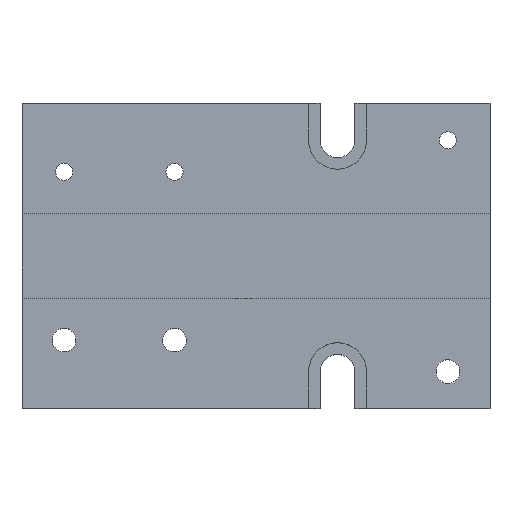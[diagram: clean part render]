
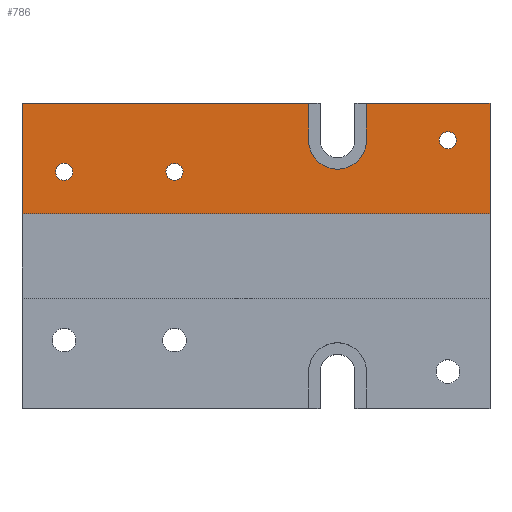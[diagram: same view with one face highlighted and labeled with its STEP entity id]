
A CAD part, top view. The second image highlights one B-rep face of the part: STEP entity #786.
In plain terms, the highlighted planar face has unit normal (0, 0, 1).
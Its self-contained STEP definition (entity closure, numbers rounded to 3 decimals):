
#36=FACE_BOUND('',#171,.T.);
#37=FACE_BOUND('',#172,.T.);
#38=FACE_BOUND('',#173,.T.);
#65=PLANE('',#856);
#107=FACE_OUTER_BOUND('',#170,.T.);
#170=EDGE_LOOP('',(#705,#706,#707,#708,#709,#710,#711,#712));
#171=EDGE_LOOP('',(#713));
#172=EDGE_LOOP('',(#714));
#173=EDGE_LOOP('',(#715));
#186=LINE('',#1106,#262);
#189=LINE('',#1112,#265);
#199=LINE('',#1137,#275);
#236=LINE('',#1261,#312);
#243=LINE('',#1274,#319);
#249=LINE('',#1287,#325);
#250=LINE('',#1288,#326);
#262=VECTOR('',#889,7.);
#265=VECTOR('',#894,7.);
#275=VECTOR('',#916,23.5);
#312=VECTOR('',#1043,21.);
#319=VECTOR('',#1052,89.);
#325=VECTOR('',#1066,54.5);
#326=VECTOR('',#1067,21.);
#330=CIRCLE('',#797,5.5);
#342=CIRCLE('',#825,1.621);
#346=CIRCLE('',#833,1.621);
#350=CIRCLE('',#841,1.621);
#362=VERTEX_POINT('',#1096);
#363=VERTEX_POINT('',#1097);
#366=VERTEX_POINT('',#1105);
#368=VERTEX_POINT('',#1111);
#377=VERTEX_POINT('',#1136);
#403=VERTEX_POINT('',#1209);
#407=VERTEX_POINT('',#1221);
#411=VERTEX_POINT('',#1233);
#419=VERTEX_POINT('',#1260);
#424=VERTEX_POINT('',#1271);
#427=VERTEX_POINT('',#1286);
#438=EDGE_CURVE('',#362,#363,#330,.T.);
#442=EDGE_CURVE('',#363,#366,#186,.T.);
#445=EDGE_CURVE('',#368,#362,#189,.T.);
#458=EDGE_CURVE('',#377,#368,#199,.T.);
#494=EDGE_CURVE('',#403,#403,#342,.T.);
#498=EDGE_CURVE('',#407,#407,#346,.T.);
#502=EDGE_CURVE('',#411,#411,#350,.T.);
#514=EDGE_CURVE('',#419,#377,#236,.T.);
#521=EDGE_CURVE('',#424,#419,#243,.T.);
#527=EDGE_CURVE('',#366,#427,#249,.T.);
#528=EDGE_CURVE('',#427,#424,#250,.T.);
#705=ORIENTED_EDGE('',*,*,#442,.T.);
#706=ORIENTED_EDGE('',*,*,#527,.T.);
#707=ORIENTED_EDGE('',*,*,#528,.T.);
#708=ORIENTED_EDGE('',*,*,#521,.T.);
#709=ORIENTED_EDGE('',*,*,#514,.T.);
#710=ORIENTED_EDGE('',*,*,#458,.T.);
#711=ORIENTED_EDGE('',*,*,#445,.T.);
#712=ORIENTED_EDGE('',*,*,#438,.T.);
#713=ORIENTED_EDGE('',*,*,#494,.T.);
#714=ORIENTED_EDGE('',*,*,#498,.T.);
#715=ORIENTED_EDGE('',*,*,#502,.T.);
#786=ADVANCED_FACE('',(#107,#36,#37,#38),#65,.T.);
#797=AXIS2_PLACEMENT_3D('',#1098,#881,#882);
#825=AXIS2_PLACEMENT_3D('',#1210,#981,#982);
#833=AXIS2_PLACEMENT_3D('',#1222,#997,#998);
#841=AXIS2_PLACEMENT_3D('',#1234,#1013,#1014);
#856=AXIS2_PLACEMENT_3D('',#1285,#1064,#1065);
#881=DIRECTION('center_axis',(0.,0.,-1.));
#882=DIRECTION('ref_axis',(1.,0.,0.));
#889=DIRECTION('',(0.,1.,0.));
#894=DIRECTION('',(0.,-1.,0.));
#916=DIRECTION('',(-1.,0.,0.));
#981=DIRECTION('center_axis',(0.,0.,-1.));
#982=DIRECTION('ref_axis',(1.,0.,0.));
#997=DIRECTION('center_axis',(0.,0.,-1.));
#998=DIRECTION('ref_axis',(1.,0.,0.));
#1013=DIRECTION('center_axis',(0.,0.,-1.));
#1014=DIRECTION('ref_axis',(1.,0.,0.));
#1043=DIRECTION('',(0.,1.,0.));
#1052=DIRECTION('',(1.,0.,0.));
#1064=DIRECTION('center_axis',(0.,0.,1.));
#1065=DIRECTION('ref_axis',(1.,0.,0.));
#1066=DIRECTION('',(-1.,0.,0.));
#1067=DIRECTION('',(0.,-1.,0.));
#1096=CARTESIAN_POINT('',(21.,22.,10.));
#1097=CARTESIAN_POINT('',(10.,22.,10.));
#1098=CARTESIAN_POINT('Origin',(15.5,22.,10.));
#1105=CARTESIAN_POINT('',(10.,29.,10.));
#1106=CARTESIAN_POINT('',(10.,14.5,10.));
#1111=CARTESIAN_POINT('',(21.,29.,10.));
#1112=CARTESIAN_POINT('',(21.,11.,10.));
#1136=CARTESIAN_POINT('',(44.5,29.,10.));
#1137=CARTESIAN_POINT('',(-44.5,29.,10.));
#1209=CARTESIAN_POINT('',(-34.879,16.,10.));
#1210=CARTESIAN_POINT('Origin',(-36.5,16.,10.));
#1221=CARTESIAN_POINT('',(-13.879,16.,10.));
#1222=CARTESIAN_POINT('Origin',(-15.5,16.,10.));
#1233=CARTESIAN_POINT('',(38.121,22.,10.));
#1234=CARTESIAN_POINT('Origin',(36.5,22.,10.));
#1260=CARTESIAN_POINT('',(44.5,8.,10.));
#1261=CARTESIAN_POINT('',(44.5,29.,10.));
#1271=CARTESIAN_POINT('',(-44.5,8.,10.));
#1274=CARTESIAN_POINT('',(22.25,8.,10.));
#1285=CARTESIAN_POINT('Origin',(0.,0.,10.));
#1286=CARTESIAN_POINT('',(-44.5,29.,10.));
#1287=CARTESIAN_POINT('',(-44.5,29.,10.));
#1288=CARTESIAN_POINT('',(-44.5,-29.,10.));
